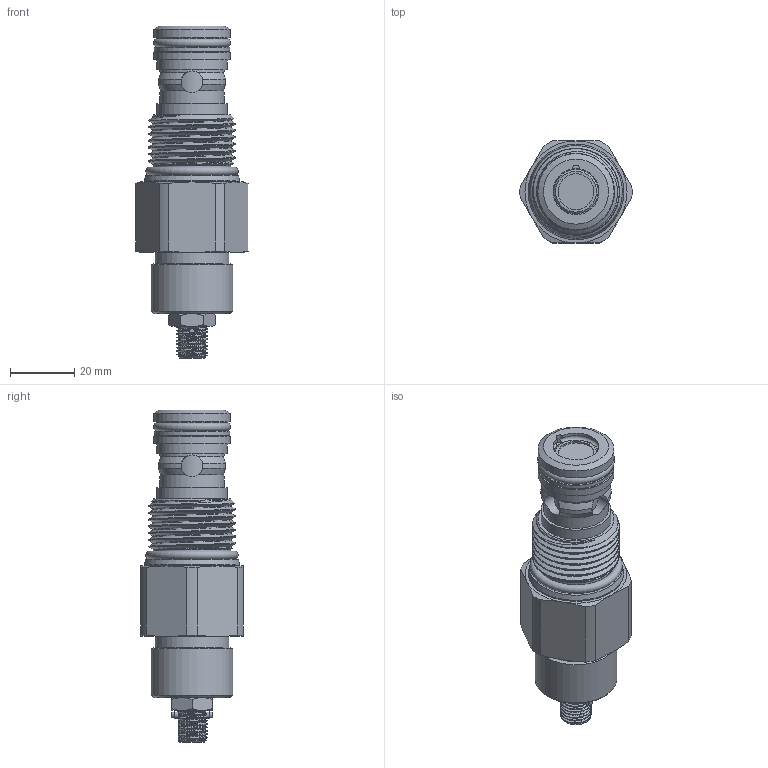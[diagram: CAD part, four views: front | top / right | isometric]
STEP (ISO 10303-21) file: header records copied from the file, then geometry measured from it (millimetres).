
FILE_DESCRIPTION(/* description */ ('','CAx-IF Rec.Pracs.---Representation and Presentation of Product Manufacturing Information (PMI)---4.0---2014-10-13'),/* implementation_level */ '2;1');
FILE_NAME(/* name */ 'P:\EARS\EAR16xx\EAR1683 - catalog pages changes\Group4a_4_Distributions_2_1_23\RTeck Agency_Tom_UNSENT\_step files\TTFAR00.stp',/* time_stamp */ '2023-02-02T16:06:55-06:00',/* author */ ('Michael'),/* organization */ (''),/* preprocessor_version */ 'ST-DEVELOPER v17.2',/* originating_system */ 'Autodesk Inventor 2019',/* authorisation */ '');
FILE_SCHEMA (('AP242_MANAGED_MODEL_BASED_3D_ENGINEERING_MIM_LF { 1 0 10303 442 1 1 4 }'));
Length unit declared in the file: inch
Products named in the file (1): TTFAR00
Bounding box: 34.91 x 31.75 x 103.29 mm (x, y, z)
Volume: 49975.9 mm3; surface area: 12998.5 mm2
Topology: 2 solids, 2 shells, 231 faces, 689 edges, 472 vertices
Faces by surface type: plane 63, cylinder 61, bspline 55, cone 47, torus 5
Full cylindrical faces by diameter (mm): 2.019 x1, 4.775 x1, 6.782 x4, 11.125 x1, 19.304 x2, 20.015 x2, 21.844 x2, 22.987 x1, 23.724 x2, 24.003 x2, 24.194 x1, 25.4 x1, 26.987 x5, 29.718 x1
Entity records: 17069 total; most frequent: CARTESIAN_POINT 11248, ORIENTED_EDGE 1378, DIRECTION 871, EDGE_CURVE 689, VERTEX_POINT 472, AXIS2_PLACEMENT_3D 375, B_SPLINE_CURVE_WITH_KNOTS 317, EDGE_LOOP 247
